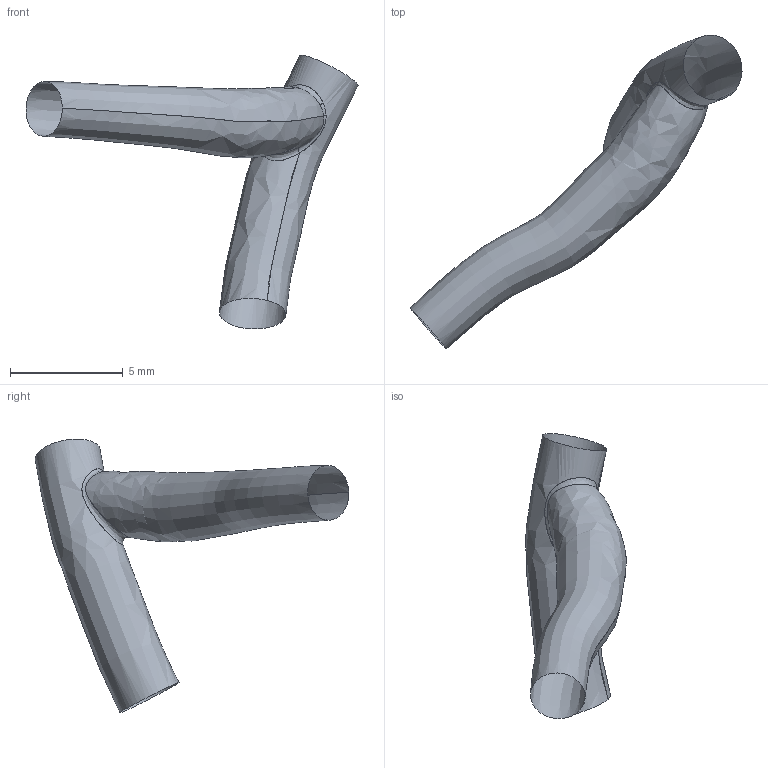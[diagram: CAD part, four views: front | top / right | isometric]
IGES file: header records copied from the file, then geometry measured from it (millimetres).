
Global section: file name: C:\Documents and Settings\Administrator\Desktop\FDA-Pig\Domestic LCA\Pig_000137\lcx.ed.igs; native system: Rhinoceros ( May 19 2006 ); preprocessor: Trout Lake IGES 012 May 19 2006; date: 111205.184148; units: centimetre
Bounding box: 14.73 x 13.91 x 12.14 mm (x, y, z)
Surface area: 234.8 mm2 (no closed solid volume)
Topology: 0 solids, 0 shells, 5 faces, 63 edges, 62 vertices
Faces by surface type: bspline 5
